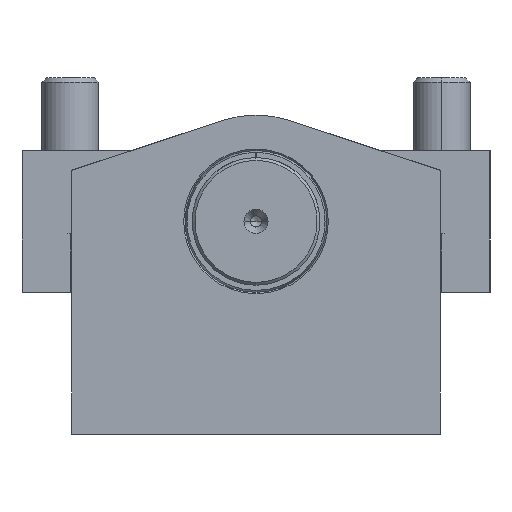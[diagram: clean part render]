
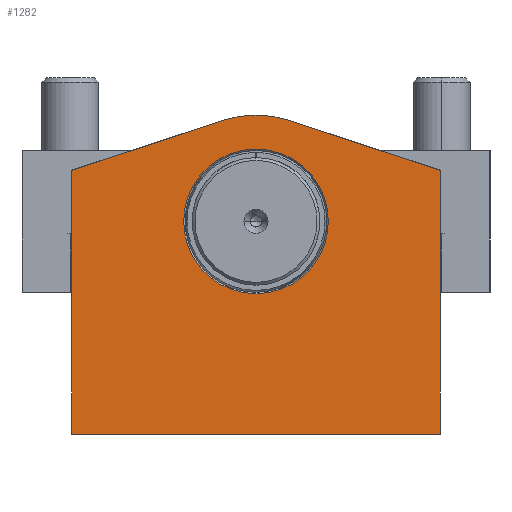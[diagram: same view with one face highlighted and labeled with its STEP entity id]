
A CAD part, front view. The second image highlights one B-rep face of the part: STEP entity #1282.
In plain terms, the highlighted planar face has unit normal (0, -1, 0).
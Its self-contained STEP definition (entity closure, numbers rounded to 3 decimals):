
#158 = CARTESIAN_POINT ( 'NONE',  ( -65., -115.45, -149.5 ) ) ;
#192 = LINE ( 'NONE', #5077, #4662 ) ;
#334 = EDGE_LOOP ( 'NONE', ( #6425, #4894 ) ) ;
#478 = CARTESIAN_POINT ( 'NONE',  ( -65., -115.45, -149.5 ) ) ;
#479 = AXIS2_PLACEMENT_3D ( 'NONE', #2800, #3249, #3848 ) ;
#561 = ORIENTED_EDGE ( 'NONE', *, *, #2466, .T. ) ;
#668 = CARTESIAN_POINT ( 'NONE',  ( 65., -115.45, -149.5 ) ) ;
#706 = LINE ( 'NONE', #6198, #2801 ) ;
#877 = CARTESIAN_POINT ( 'NONE',  ( 11.775, -115.45, -38.897 ) ) ;
#895 = CIRCLE ( 'NONE', #4993, 37.5 ) ;
#1008 = DIRECTION ( 'NONE',  ( 0., 1., 0. ) ) ;
#1051 = CARTESIAN_POINT ( 'NONE',  ( 0., -115.45, -74.5 ) ) ;
#1076 = CARTESIAN_POINT ( 'NONE',  ( 65., -115.45, -149.5 ) ) ;
#1119 = DIRECTION ( 'NONE',  ( 0., -1., 0. ) ) ;
#1282 = ADVANCED_FACE ( 'NONE', ( #3494, #6076 ), #5480, .F. ) ;
#1392 = VERTEX_POINT ( 'NONE', #158 ) ;
#1429 = DIRECTION ( 'NONE',  ( -1., 0., 0. ) ) ;
#1495 = CARTESIAN_POINT ( 'NONE',  ( -25.5, -115.45, -74.5 ) ) ;
#1531 = CIRCLE ( 'NONE', #479, 25.5 ) ;
#1687 = LINE ( 'NONE', #1076, #4539 ) ;
#1725 = DIRECTION ( 'NONE',  ( 1., 0., 0. ) ) ;
#1794 = ORIENTED_EDGE ( 'NONE', *, *, #3423, .T. ) ;
#2086 = CARTESIAN_POINT ( 'NONE',  ( 0., -115.45, -100.019 ) ) ;
#2109 = EDGE_CURVE ( 'NONE', #5908, #2193, #2434, .T. ) ;
#2193 = VERTEX_POINT ( 'NONE', #4986 ) ;
#2434 = LINE ( 'NONE', #3776, #4817 ) ;
#2457 = CIRCLE ( 'NONE', #3495, 25.5 ) ;
#2466 = EDGE_CURVE ( 'NONE', #2765, #5908, #895, .T. ) ;
#2617 = EDGE_CURVE ( 'NONE', #2672, #2765, #706, .T. ) ;
#2672 = VERTEX_POINT ( 'NONE', #5898 ) ;
#2735 = EDGE_CURVE ( 'NONE', #2970, #3173, #1531, .T. ) ;
#2765 = VERTEX_POINT ( 'NONE', #877 ) ;
#2800 = CARTESIAN_POINT ( 'NONE',  ( 0., -115.45, -74.5 ) ) ;
#2801 = VECTOR ( 'NONE', #3188, 1000. ) ;
#2862 = CARTESIAN_POINT ( 'NONE',  ( 25.5, -115.45, -74.5 ) ) ;
#2970 = VERTEX_POINT ( 'NONE', #1495 ) ;
#3021 = ORIENTED_EDGE ( 'NONE', *, *, #4637, .T. ) ;
#3173 = VERTEX_POINT ( 'NONE', #2862 ) ;
#3188 = DIRECTION ( 'NONE',  ( -0.949, 0., 0.314 ) ) ;
#3249 = DIRECTION ( 'NONE',  ( 0., -1., 0. ) ) ;
#3423 = EDGE_CURVE ( 'NONE', #5501, #2672, #192, .T. ) ;
#3437 = AXIS2_PLACEMENT_3D ( 'NONE', #2086, #1008, #1429 ) ;
#3474 = LINE ( 'NONE', #478, #4883 ) ;
#3494 = FACE_BOUND ( 'NONE', #334, .T. ) ;
#3495 = AXIS2_PLACEMENT_3D ( 'NONE', #4563, #1119, #6191 ) ;
#3629 = ORIENTED_EDGE ( 'NONE', *, *, #2617, .T. ) ;
#3693 = DIRECTION ( 'NONE',  ( 0., 0., 1. ) ) ;
#3769 = DIRECTION ( 'NONE',  ( 0., -1., 0. ) ) ;
#3776 = CARTESIAN_POINT ( 'NONE',  ( -65., -115.45, -56.5 ) ) ;
#3825 = ORIENTED_EDGE ( 'NONE', *, *, #2109, .T. ) ;
#3848 = DIRECTION ( 'NONE',  ( 1., 0., 0. ) ) ;
#4059 = DIRECTION ( 'NONE',  ( -0.949, 0., -0.314 ) ) ;
#4539 = VECTOR ( 'NONE', #1725, 1000. ) ;
#4563 = CARTESIAN_POINT ( 'NONE',  ( 0., -115.45, -74.5 ) ) ;
#4637 = EDGE_CURVE ( 'NONE', #1392, #5501, #1687, .T. ) ;
#4662 = VECTOR ( 'NONE', #3693, 1000. ) ;
#4817 = VECTOR ( 'NONE', #4059, 1000. ) ;
#4883 = VECTOR ( 'NONE', #4966, 1000. ) ;
#4894 = ORIENTED_EDGE ( 'NONE', *, *, #2735, .F. ) ;
#4966 = DIRECTION ( 'NONE',  ( 0., 0., -1. ) ) ;
#4986 = CARTESIAN_POINT ( 'NONE',  ( -65., -115.45, -56.5 ) ) ;
#4993 = AXIS2_PLACEMENT_3D ( 'NONE', #1051, #3769, #5091 ) ;
#5077 = CARTESIAN_POINT ( 'NONE',  ( 65., -115.45, -56.5 ) ) ;
#5091 = DIRECTION ( 'NONE',  ( -0.314, 0., 0.949 ) ) ;
#5480 = PLANE ( 'NONE',  #3437 ) ;
#5501 = VERTEX_POINT ( 'NONE', #668 ) ;
#5708 = EDGE_CURVE ( 'NONE', #2193, #1392, #3474, .T. ) ;
#5794 = EDGE_LOOP ( 'NONE', ( #3021, #1794, #3629, #561, #3825, #6072 ) ) ;
#5798 = EDGE_CURVE ( 'NONE', #3173, #2970, #2457, .T. ) ;
#5898 = CARTESIAN_POINT ( 'NONE',  ( 65., -115.45, -56.5 ) ) ;
#5908 = VERTEX_POINT ( 'NONE', #6115 ) ;
#6072 = ORIENTED_EDGE ( 'NONE', *, *, #5708, .T. ) ;
#6076 = FACE_OUTER_BOUND ( 'NONE', #5794, .T. ) ;
#6115 = CARTESIAN_POINT ( 'NONE',  ( -11.775, -115.45, -38.897 ) ) ;
#6191 = DIRECTION ( 'NONE',  ( 1., 0., 0. ) ) ;
#6198 = CARTESIAN_POINT ( 'NONE',  ( 11.775, -115.45, -38.897 ) ) ;
#6425 = ORIENTED_EDGE ( 'NONE', *, *, #5798, .F. ) ;
